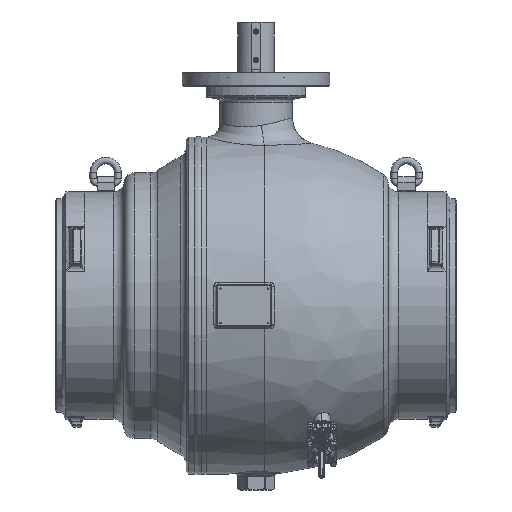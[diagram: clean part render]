
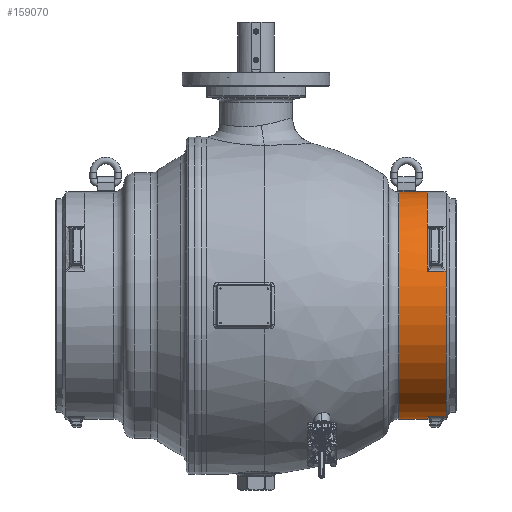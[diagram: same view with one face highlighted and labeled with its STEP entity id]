
A CAD part, front view. The second image highlights one B-rep face of the part: STEP entity #159070.
In plain terms, the highlighted cylindrical face has radius 432 mm (diameter 864 mm), a partial arc.
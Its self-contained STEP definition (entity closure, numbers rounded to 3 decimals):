
#37705=CARTESIAN_POINT('',(722.278,0.,0.));
#37706=DIRECTION('',(-1.,0.,0.));
#37707=DIRECTION('',(0.,0.,-1.));
#37708=AXIS2_PLACEMENT_3D('',#37705,#37706,#37707);
#37710=DIRECTION('',(-1.,0.,0.));
#37711=VECTOR('',#37710,0.04);
#37712=CARTESIAN_POINT('',(722.278,0.,-432.));
#37713=LINE('',#37712,#37711);
#37714=DIRECTION('',(-1.,0.,0.));
#37715=VECTOR('',#37714,71.238);
#37716=CARTESIAN_POINT('',(722.238,-92.061,
-422.077));
#37717=LINE('',#37716,#37715);
#37718=DIRECTION('',(-1.,0.,0.));
#37719=VECTOR('',#37718,109.307);
#37720=CARTESIAN_POINT('',(651.,0.,-432.));
#37721=LINE('',#37720,#37719);
#37722=CARTESIAN_POINT('',(541.693,0.,0.));
#37723=DIRECTION('',(1.,0.,0.));
#37724=DIRECTION('',(0.,0.,1.));
#37725=AXIS2_PLACEMENT_3D('',#37722,#37723,#37724);
#37727=DIRECTION('',(-1.,0.,0.));
#37728=VECTOR('',#37727,109.307);
#37729=CARTESIAN_POINT('',(651.,0.,432.));
#37730=LINE('',#37729,#37728);
#37731=CARTESIAN_POINT('',(651.,0.,0.));
#37732=DIRECTION('',(-1.,0.,0.));
#37733=DIRECTION('',(0.,-0.715,0.699));
#37734=AXIS2_PLACEMENT_3D('',#37731,#37732,#37733);
#37736=DIRECTION('',(-1.,0.,0.));
#37737=VECTOR('',#37736,71.238);
#37738=CARTESIAN_POINT('',(722.238,-411.56,
131.311));
#37739=LINE('',#37738,#37737);
#37740=CARTESIAN_POINT('',(722.238,0.,0.));
#37741=DIRECTION('',(1.,0.,0.));
#37742=DIRECTION('',(0.,0.,1.));
#37743=AXIS2_PLACEMENT_3D('',#37740,#37741,#37742);
#37745=DIRECTION('',(-1.,0.,0.));
#37746=VECTOR('',#37745,0.04);
#37747=CARTESIAN_POINT('',(722.278,0.,432.));
#37748=LINE('',#37747,#37746);
#37787=CARTESIAN_POINT('',(722.238,-92.061,
-422.077));
#37789=CARTESIAN_POINT('',(722.238,0.,0.));
#37790=DIRECTION('',(1.,0.,0.));
#37791=DIRECTION('',(0.,-0.213,-0.977));
#37792=AXIS2_PLACEMENT_3D('',#37789,#37790,#37791);
#37914=CARTESIAN_POINT('',(651.,-92.061,-422.077));
#38306=CARTESIAN_POINT('',(651.,0.,0.));
#38307=DIRECTION('',(-1.,0.,0.));
#38308=DIRECTION('',(0.,0.,-1.));
#38309=AXIS2_PLACEMENT_3D('',#38306,#38307,#38308);
#59712=CARTESIAN_POINT('',(651.,-411.56,131.311));
#59714=CARTESIAN_POINT('',(651.,0.,0.));
#59715=DIRECTION('',(-1.,0.,0.));
#59716=DIRECTION('',(0.,-0.953,0.304));
#59717=AXIS2_PLACEMENT_3D('',#59714,#59715,#59716);
#59852=CARTESIAN_POINT('',(722.238,0.,0.));
#59853=DIRECTION('',(1.,0.,0.));
#59854=DIRECTION('',(0.,-0.715,0.699));
#59855=AXIS2_PLACEMENT_3D('',#59852,#59853,#59854);
#59993=CARTESIAN_POINT('',(722.238,-411.56,
131.311));
#95309=CARTESIAN_POINT('',(541.693,0.,432.));
#95310=CARTESIAN_POINT('',(541.693,0.,-432.));
#95311=VERTEX_POINT('',#95309);
#95312=VERTEX_POINT('',#95310);
#95365=CARTESIAN_POINT('',(651.,0.,-432.));
#95366=VERTEX_POINT('',#95365);
#95367=CARTESIAN_POINT('',(651.,0.,432.));
#95368=VERTEX_POINT('',#95367);
#95369=CARTESIAN_POINT('',(651.,-308.937,301.964));
#95370=VERTEX_POINT('',#95369);
#95371=CARTESIAN_POINT('',(722.238,0.,432.));
#95372=CARTESIAN_POINT('',(722.238,-308.937,
301.964));
#95373=VERTEX_POINT('',#95371);
#95374=VERTEX_POINT('',#95372);
#95396=VERTEX_POINT('',#59712);
#95418=VERTEX_POINT('',#59993);
#95466=VERTEX_POINT('',#37787);
#95488=VERTEX_POINT('',#37914);
#95513=CARTESIAN_POINT('',(722.238,0.,-432.));
#95514=VERTEX_POINT('',#95513);
#95553=CARTESIAN_POINT('',(722.278,0.,432.));
#95554=CARTESIAN_POINT('',(722.278,0.,-432.));
#95555=VERTEX_POINT('',#95553);
#95556=VERTEX_POINT('',#95554);
#159041=CARTESIAN_POINT('',(837.85,0.,0.));
#159042=DIRECTION('',(-1.,0.,0.));
#159043=DIRECTION('',(0.,0.,1.));
#159044=AXIS2_PLACEMENT_3D('',#159041,#159042,#159043);
#159045=CYLINDRICAL_SURFACE('',#159044,432.);
#159047=ORIENTED_EDGE('',*,*,#159046,.F.);
#159048=ORIENTED_EDGE('',*,*,#159026,.T.);
#159050=ORIENTED_EDGE('',*,*,#159049,.F.);
#159052=ORIENTED_EDGE('',*,*,#159051,.T.);
#159054=ORIENTED_EDGE('',*,*,#159053,.F.);
#159055=ORIENTED_EDGE('',*,*,#159018,.T.);
#159057=ORIENTED_EDGE('',*,*,#159056,.F.);
#159058=ORIENTED_EDGE('',*,*,#159014,.F.);
#159059=ORIENTED_EDGE('',*,*,#159012,.F.);
#159061=ORIENTED_EDGE('',*,*,#159060,.F.);
#159063=ORIENTED_EDGE('',*,*,#159062,.F.);
#159065=ORIENTED_EDGE('',*,*,#159064,.F.);
#159066=ORIENTED_EDGE('',*,*,#159008,.F.);
#159067=ORIENTED_EDGE('',*,*,#159006,.F.);
#159068=EDGE_LOOP('',(#159047,#159048,#159050,#159052,#159054,#159055,#159057,
#159058,#159059,#159061,#159063,#159065,#159066,#159067));
#159069=FACE_OUTER_BOUND('',#159068,.F.);
#159070=ADVANCED_FACE('',(#159069),#159045,.T.);
#37709=CIRCLE('',#37708,432.);
#37726=CIRCLE('',#37725,432.);
#37735=CIRCLE('',#37734,432.);
#37744=CIRCLE('',#37743,432.);
#37793=CIRCLE('',#37792,432.);
#38310=CIRCLE('',#38309,432.);
#59718=CIRCLE('',#59717,432.);
#59856=CIRCLE('',#59855,432.);
#159006=EDGE_CURVE('',#95555,#95373,#37748,.T.);
#159008=EDGE_CURVE('',#95373,#95374,#37744,.T.);
#159012=EDGE_CURVE('',#95370,#95368,#37735,.T.);
#159014=EDGE_CURVE('',#95368,#95311,#37730,.T.);
#159018=EDGE_CURVE('',#95366,#95312,#37721,.T.);
#159026=EDGE_CURVE('',#95556,#95514,#37713,.T.);
#159046=EDGE_CURVE('',#95556,#95555,#37709,.T.);
#159049=EDGE_CURVE('',#95466,#95514,#37793,.T.);
#159051=EDGE_CURVE('',#95466,#95488,#37717,.T.);
#159053=EDGE_CURVE('',#95366,#95488,#38310,.T.);
#159056=EDGE_CURVE('',#95311,#95312,#37726,.T.);
#159060=EDGE_CURVE('',#95396,#95370,#59718,.T.);
#159062=EDGE_CURVE('',#95418,#95396,#37739,.T.);
#159064=EDGE_CURVE('',#95374,#95418,#59856,.T.);
